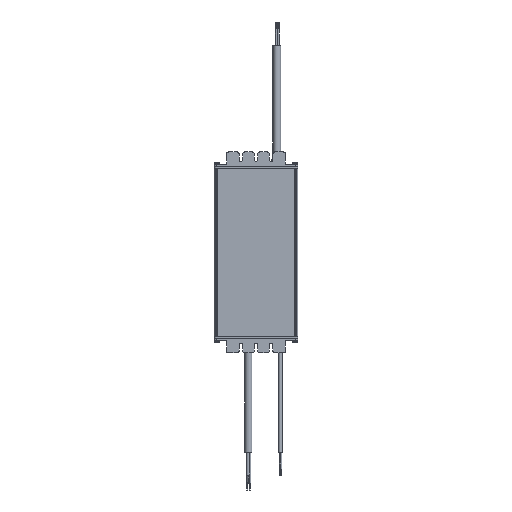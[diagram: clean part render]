
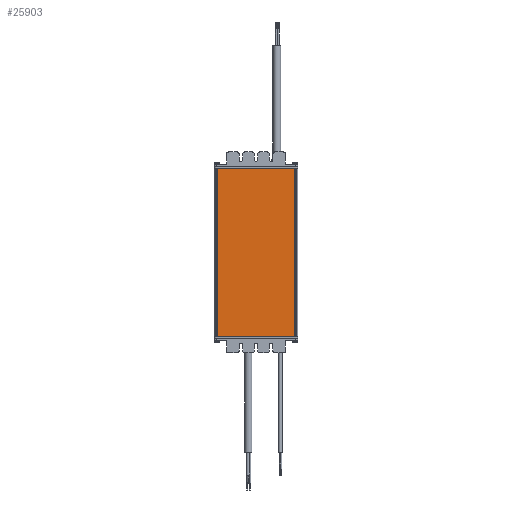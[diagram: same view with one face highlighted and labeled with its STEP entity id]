
A CAD part, front view. The second image highlights one B-rep face of the part: STEP entity #25903.
In plain terms, the highlighted planar face has unit normal (0, -1, 0).
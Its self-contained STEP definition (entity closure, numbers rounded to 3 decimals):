
#966 = VECTOR ( 'NONE', #13930, 1000. ) ;
#1108 = CARTESIAN_POINT ( 'NONE',  ( 112.436, 110.04, 201. ) ) ;
#2063 = CARTESIAN_POINT ( 'NONE',  ( 21.536, 110.04, 0. ) ) ;
#2503 = EDGE_CURVE ( 'NONE', #10619, #18408, #21013, .T. ) ;
#6140 = VECTOR ( 'NONE', #13163, 1000. ) ;
#6856 = FACE_OUTER_BOUND ( 'NONE', #23499, .T. ) ;
#7936 = ORIENTED_EDGE ( 'NONE', *, *, #25797, .F. ) ;
#8376 = LINE ( 'NONE', #21044, #8845 ) ;
#8845 = VECTOR ( 'NONE', #17949, 1000. ) ;
#9217 = VERTEX_POINT ( 'NONE', #2063 ) ;
#10619 = VERTEX_POINT ( 'NONE', #1108 ) ;
#11202 = CARTESIAN_POINT ( 'NONE',  ( 112.436, 110.04, 201. ) ) ;
#13163 = DIRECTION ( 'NONE',  ( 1., 0., 0. ) ) ;
#13930 = DIRECTION ( 'NONE',  ( 0., 0., -1. ) ) ;
#15723 = CARTESIAN_POINT ( 'NONE',  ( 112.436, 110.04, 0. ) ) ;
#16809 = PLANE ( 'NONE',  #35353 ) ;
#17575 = ORIENTED_EDGE ( 'NONE', *, *, #2503, .F. ) ;
#17949 = DIRECTION ( 'NONE',  ( 0., 0., 1. ) ) ;
#18408 = VERTEX_POINT ( 'NONE', #15723 ) ;
#19362 = EDGE_CURVE ( 'NONE', #20777, #10619, #28840, .T. ) ;
#20777 = VERTEX_POINT ( 'NONE', #34728 ) ;
#21013 = LINE ( 'NONE', #36910, #966 ) ;
#21044 = CARTESIAN_POINT ( 'NONE',  ( 21.536, 110.04, 201. ) ) ;
#23499 = EDGE_LOOP ( 'NONE', ( #17575, #33107, #33026, #7936 ) ) ;
#24604 = CARTESIAN_POINT ( 'NONE',  ( 112.436, 110.04, 201. ) ) ;
#25264 = DIRECTION ( 'NONE',  ( 0., 0., 1. ) ) ;
#25797 = EDGE_CURVE ( 'NONE', #18408, #9217, #36672, .T. ) ;
#25903 = ADVANCED_FACE ( 'NONE', ( #6856 ), #16809, .F. ) ;
#28840 = LINE ( 'NONE', #24604, #6140 ) ;
#30953 = DIRECTION ( 'NONE',  ( 0., 1., 0. ) ) ;
#32390 = EDGE_CURVE ( 'NONE', #9217, #20777, #8376, .T. ) ;
#33026 = ORIENTED_EDGE ( 'NONE', *, *, #32390, .F. ) ;
#33107 = ORIENTED_EDGE ( 'NONE', *, *, #19362, .F. ) ;
#34010 = VECTOR ( 'NONE', #35000, 1000. ) ;
#34377 = CARTESIAN_POINT ( 'NONE',  ( 112.436, 110.04, 0. ) ) ;
#34728 = CARTESIAN_POINT ( 'NONE',  ( 21.536, 110.04, 201. ) ) ;
#35000 = DIRECTION ( 'NONE',  ( -1., 0., 0. ) ) ;
#35353 = AXIS2_PLACEMENT_3D ( 'NONE', #11202, #30953, #25264 ) ;
#36672 = LINE ( 'NONE', #34377, #34010 ) ;
#36910 = CARTESIAN_POINT ( 'NONE',  ( 112.436, 110.04, 201. ) ) ;
